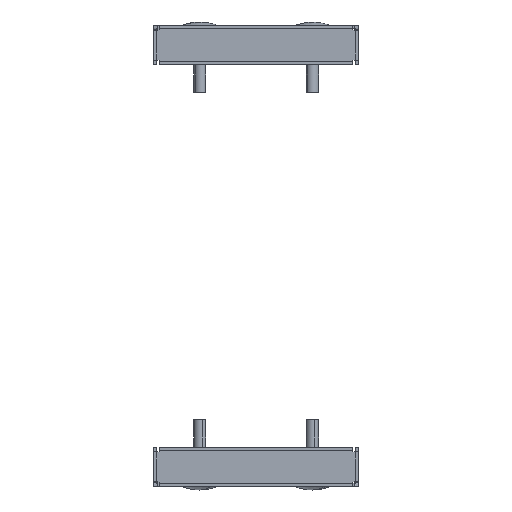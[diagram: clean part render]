
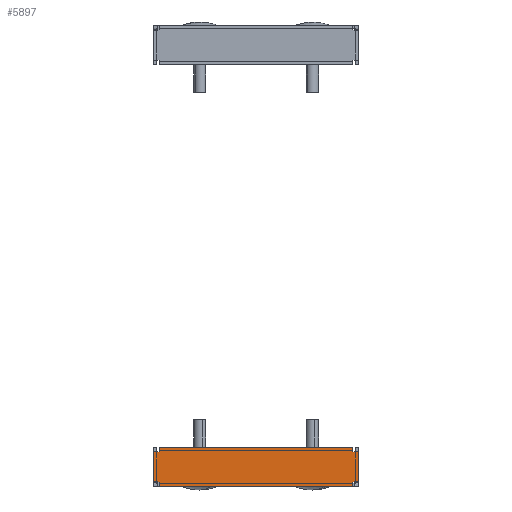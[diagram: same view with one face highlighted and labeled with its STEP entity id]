
A CAD part, left-side view. The second image highlights one B-rep face of the part: STEP entity #5897.
In plain terms, the highlighted planar face has unit normal (-1, 0, 0).
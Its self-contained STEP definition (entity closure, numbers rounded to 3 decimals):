
#27 = LINE ( 'NONE', #9350, #8458 ) ;
#54 = CARTESIAN_POINT ( 'NONE',  ( -299.5, 49.649, 0.758 ) ) ;
#55 = EDGE_CURVE ( 'NONE', #5308, #4552, #384, .T. ) ;
#344 = ORIENTED_EDGE ( 'NONE', *, *, #1482, .T. ) ;
#358 = CARTESIAN_POINT ( 'NONE',  ( -299.5, 47.9, 15.4 ) ) ;
#384 = LINE ( 'NONE', #8853, #1191 ) ;
#496 = VERTEX_POINT ( 'NONE', #4075 ) ;
#501 = CARTESIAN_POINT ( 'NONE',  ( -299.5, -47.3, 15.4 ) ) ;
#510 = VERTEX_POINT ( 'NONE', #2599 ) ;
#528 = EDGE_CURVE ( 'NONE', #6782, #9904, #2644, .T. ) ;
#556 = LINE ( 'NONE', #2242, #7961 ) ;
#761 = CARTESIAN_POINT ( 'NONE',  ( -299.5, 48.599, 0.674 ) ) ;
#862 = CARTESIAN_POINT ( 'NONE',  ( -299.5, 47.9, 0.6 ) ) ;
#898 = ORIENTED_EDGE ( 'NONE', *, *, #1650, .T. ) ;
#918 = EDGE_CURVE ( 'NONE', #4523, #7529, #7999, .T. ) ;
#943 = ORIENTED_EDGE ( 'NONE', *, *, #8808, .T. ) ;
#969 = CARTESIAN_POINT ( 'NONE',  ( -299.5, -50., 0. ) ) ;
#1122 = CARTESIAN_POINT ( 'NONE',  ( -299.5, -47.9, 0.6 ) ) ;
#1162 = B_SPLINE_CURVE_WITH_KNOTS ( 'NONE', 3,
 ( #9888, #2921, #8422, #6004, #2159, #7573 ),
 .UNSPECIFIED., .F., .F.,
 ( 4, 2, 4 ),
 ( 0.006, 0.007, 0.008 ),
 .UNSPECIFIED. ) ;
#1177 = EDGE_CURVE ( 'NONE', #6340, #510, #1162, .T. ) ;
#1191 = VECTOR ( 'NONE', #1929, 1000. ) ;
#1482 = EDGE_CURVE ( 'NONE', #6295, #2125, #556, .T. ) ;
#1558 = CARTESIAN_POINT ( 'NONE',  ( -299.5, 48.249, 0.637 ) ) ;
#1650 = EDGE_CURVE ( 'NONE', #7953, #8758, #6952, .T. ) ;
#1681 = DIRECTION ( 'NONE',  ( 1., 0., 0. ) ) ;
#1712 = EDGE_CURVE ( 'NONE', #6340, #5308, #2443, .T. ) ;
#1755 = DIRECTION ( 'NONE',  ( 0., 1., 0. ) ) ;
#1777 = ORIENTED_EDGE ( 'NONE', *, *, #528, .F. ) ;
#1791 = EDGE_CURVE ( 'NONE', #6782, #6295, #4983, .T. ) ;
#1929 = DIRECTION ( 'NONE',  ( 0., 0., -1. ) ) ;
#2049 = DIRECTION ( 'NONE',  ( 0., -1., 0. ) ) ;
#2077 = VECTOR ( 'NONE', #9641, 1000. ) ;
#2125 = VERTEX_POINT ( 'NONE', #4219 ) ;
#2159 = CARTESIAN_POINT ( 'NONE',  ( -299.5, -49.649, 0.758 ) ) ;
#2242 = CARTESIAN_POINT ( 'NONE',  ( -299.5, 50., 0. ) ) ;
#2443 = LINE ( 'NONE', #3918, #2468 ) ;
#2468 = VECTOR ( 'NONE', #1755, 1000. ) ;
#2494 = VECTOR ( 'NONE', #7265, 1000. ) ;
#2554 = CARTESIAN_POINT ( 'NONE',  ( -299.5, -47.3, -1.5 ) ) ;
#2599 = CARTESIAN_POINT ( 'NONE',  ( -299.5, -50., 0.777 ) ) ;
#2631 = VECTOR ( 'NONE', #2700, 1000. ) ;
#2644 = LINE ( 'NONE', #3466, #8754 ) ;
#2700 = DIRECTION ( 'NONE',  ( 0., 1., 0. ) ) ;
#2754 = CARTESIAN_POINT ( 'NONE',  ( -299.5, 0., -1.5 ) ) ;
#2783 = VECTOR ( 'NONE', #7141, 1000. ) ;
#2824 = EDGE_CURVE ( 'NONE', #9904, #4523, #27, .T. ) ;
#2921 = CARTESIAN_POINT ( 'NONE',  ( -299.5, -48.249, 0.637 ) ) ;
#3220 = CARTESIAN_POINT ( 'NONE',  ( -299.5, 47.3, 17.5 ) ) ;
#3241 = ORIENTED_EDGE ( 'NONE', *, *, #1791, .T. ) ;
#3355 = CARTESIAN_POINT ( 'NONE',  ( -299.5, 0., 15.4 ) ) ;
#3400 = ORIENTED_EDGE ( 'NONE', *, *, #7555, .T. ) ;
#3457 = CARTESIAN_POINT ( 'NONE',  ( -299.5, 0., 17.5 ) ) ;
#3466 = CARTESIAN_POINT ( 'NONE',  ( -299.5, 47.9, 15.4 ) ) ;
#3482 = LINE ( 'NONE', #5091, #2077 ) ;
#3490 = VECTOR ( 'NONE', #4129, 1000. ) ;
#3506 = EDGE_CURVE ( 'NONE', #9400, #7529, #6542, .T. ) ;
#3534 = CARTESIAN_POINT ( 'NONE',  ( -299.5, 0., 0. ) ) ;
#3663 = LINE ( 'NONE', #2754, #5772 ) ;
#3873 = CARTESIAN_POINT ( 'NONE',  ( -299.5, 50., 0.777 ) ) ;
#3918 = CARTESIAN_POINT ( 'NONE',  ( -299.5, -47.9, 0.6 ) ) ;
#4075 = CARTESIAN_POINT ( 'NONE',  ( -299.5, -50., 15.4 ) ) ;
#4129 = DIRECTION ( 'NONE',  ( 0., 1., 0. ) ) ;
#4193 = VECTOR ( 'NONE', #8895, 1000. ) ;
#4219 = CARTESIAN_POINT ( 'NONE',  ( -299.5, 50., 0.777 ) ) ;
#4523 = VERTEX_POINT ( 'NONE', #3220 ) ;
#4552 = VERTEX_POINT ( 'NONE', #2554 ) ;
#4586 = EDGE_CURVE ( 'NONE', #5458, #9400, #9375, .T. ) ;
#4726 = ORIENTED_EDGE ( 'NONE', *, *, #1177, .T. ) ;
#4833 = CARTESIAN_POINT ( 'NONE',  ( -299.5, -47.9, 15.4 ) ) ;
#4880 = ORIENTED_EDGE ( 'NONE', *, *, #1712, .F. ) ;
#4983 = LINE ( 'NONE', #358, #2631 ) ;
#5091 = CARTESIAN_POINT ( 'NONE',  ( -299.5, 47.9, 0.6 ) ) ;
#5111 = EDGE_LOOP ( 'NONE', ( #9694, #7269, #9351, #6861, #1777, #3241, #344, #943, #3400, #898, #7433, #6407, #4880, #4726, #9655, #6576 ) ) ;
#5280 = CARTESIAN_POINT ( 'NONE',  ( -299.5, -47.3, 0.6 ) ) ;
#5308 = VERTEX_POINT ( 'NONE', #5280 ) ;
#5362 = CARTESIAN_POINT ( 'NONE',  ( -299.5, 47.9, 15.4 ) ) ;
#5458 = VERTEX_POINT ( 'NONE', #4833 ) ;
#5577 = VECTOR ( 'NONE', #8960, 1000. ) ;
#5596 = DIRECTION ( 'NONE',  ( 0., 0., -1. ) ) ;
#5601 = CARTESIAN_POINT ( 'NONE',  ( -299.5, -47.3, 15.4 ) ) ;
#5631 = DIRECTION ( 'NONE',  ( 0., 0., -1. ) ) ;
#5772 = VECTOR ( 'NONE', #2049, 1000. ) ;
#5897 = ADVANCED_FACE ( 'NONE', ( #6278 ), #9357, .F. ) ;
#6004 = CARTESIAN_POINT ( 'NONE',  ( -299.5, -49.299, 0.734 ) ) ;
#6173 = VECTOR ( 'NONE', #5596, 1000. ) ;
#6278 = FACE_OUTER_BOUND ( 'NONE', #5111, .T. ) ;
#6295 = VERTEX_POINT ( 'NONE', #9488 ) ;
#6302 = CARTESIAN_POINT ( 'NONE',  ( -299.5, 47.3, -1.5 ) ) ;
#6340 = VERTEX_POINT ( 'NONE', #1122 ) ;
#6402 = EDGE_CURVE ( 'NONE', #8758, #4552, #3663, .T. ) ;
#6407 = ORIENTED_EDGE ( 'NONE', *, *, #55, .F. ) ;
#6542 = LINE ( 'NONE', #501, #5577 ) ;
#6576 = ORIENTED_EDGE ( 'NONE', *, *, #8108, .F. ) ;
#6610 = CARTESIAN_POINT ( 'NONE',  ( -299.5, -47.3, 17.5 ) ) ;
#6782 = VERTEX_POINT ( 'NONE', #5362 ) ;
#6861 = ORIENTED_EDGE ( 'NONE', *, *, #2824, .F. ) ;
#6926 = DIRECTION ( 'NONE',  ( 0., 0., 1. ) ) ;
#6952 = LINE ( 'NONE', #8520, #6173 ) ;
#6957 = CARTESIAN_POINT ( 'NONE',  ( -299.5, 49.299, 0.734 ) ) ;
#7115 = CARTESIAN_POINT ( 'NONE',  ( -299.5, 47.3, 15.4 ) ) ;
#7141 = DIRECTION ( 'NONE',  ( 0., -1., 0. ) ) ;
#7265 = DIRECTION ( 'NONE',  ( 0., 0., -1. ) ) ;
#7269 = ORIENTED_EDGE ( 'NONE', *, *, #3506, .T. ) ;
#7351 = CARTESIAN_POINT ( 'NONE',  ( -299.5, 47.3, 0.6 ) ) ;
#7433 = ORIENTED_EDGE ( 'NONE', *, *, #6402, .T. ) ;
#7529 = VERTEX_POINT ( 'NONE', #6610 ) ;
#7555 = EDGE_CURVE ( 'NONE', #8400, #7953, #3482, .T. ) ;
#7573 = CARTESIAN_POINT ( 'NONE',  ( -299.5, -50., 0.777 ) ) ;
#7817 = CARTESIAN_POINT ( 'NONE',  ( -299.5, -47.9, 15.4 ) ) ;
#7953 = VERTEX_POINT ( 'NONE', #7351 ) ;
#7961 = VECTOR ( 'NONE', #9222, 1000. ) ;
#7999 = LINE ( 'NONE', #3457, #2783 ) ;
#8019 = AXIS2_PLACEMENT_3D ( 'NONE', #3534, #1681, #5631 ) ;
#8108 = EDGE_CURVE ( 'NONE', #5458, #496, #8799, .T. ) ;
#8334 = CARTESIAN_POINT ( 'NONE',  ( -299.5, 47.9, 0.6 ) ) ;
#8400 = VERTEX_POINT ( 'NONE', #8334 ) ;
#8422 = CARTESIAN_POINT ( 'NONE',  ( -299.5, -48.599, 0.674 ) ) ;
#8458 = VECTOR ( 'NONE', #6926, 1000. ) ;
#8520 = CARTESIAN_POINT ( 'NONE',  ( -299.5, 47.3, 0.6 ) ) ;
#8754 = VECTOR ( 'NONE', #8871, 1000. ) ;
#8758 = VERTEX_POINT ( 'NONE', #6302 ) ;
#8799 = LINE ( 'NONE', #3355, #4193 ) ;
#8808 = EDGE_CURVE ( 'NONE', #2125, #8400, #9223, .T. ) ;
#8853 = CARTESIAN_POINT ( 'NONE',  ( -299.5, -47.3, 0. ) ) ;
#8871 = DIRECTION ( 'NONE',  ( 0., -1., 0. ) ) ;
#8895 = DIRECTION ( 'NONE',  ( 0., -1., 0. ) ) ;
#8960 = DIRECTION ( 'NONE',  ( 0., 0., 1. ) ) ;
#9222 = DIRECTION ( 'NONE',  ( 0., 0., -1. ) ) ;
#9223 = B_SPLINE_CURVE_WITH_KNOTS ( 'NONE', 3,
 ( #3873, #54, #6957, #761, #1558, #862 ),
 .UNSPECIFIED., .F., .F.,
 ( 4, 2, 4 ),
 ( 0.006, 0.007, 0.008 ),
 .UNSPECIFIED. ) ;
#9350 = CARTESIAN_POINT ( 'NONE',  ( -299.5, 47.3, 0. ) ) ;
#9351 = ORIENTED_EDGE ( 'NONE', *, *, #918, .F. ) ;
#9357 = PLANE ( 'NONE',  #8019 ) ;
#9375 = LINE ( 'NONE', #7817, #3490 ) ;
#9400 = VERTEX_POINT ( 'NONE', #5601 ) ;
#9487 = LINE ( 'NONE', #969, #2494 ) ;
#9488 = CARTESIAN_POINT ( 'NONE',  ( -299.5, 50., 15.4 ) ) ;
#9641 = DIRECTION ( 'NONE',  ( 0., -1., 0. ) ) ;
#9655 = ORIENTED_EDGE ( 'NONE', *, *, #9911, .F. ) ;
#9694 = ORIENTED_EDGE ( 'NONE', *, *, #4586, .T. ) ;
#9888 = CARTESIAN_POINT ( 'NONE',  ( -299.5, -47.9, 0.6 ) ) ;
#9904 = VERTEX_POINT ( 'NONE', #7115 ) ;
#9911 = EDGE_CURVE ( 'NONE', #496, #510, #9487, .T. ) ;
